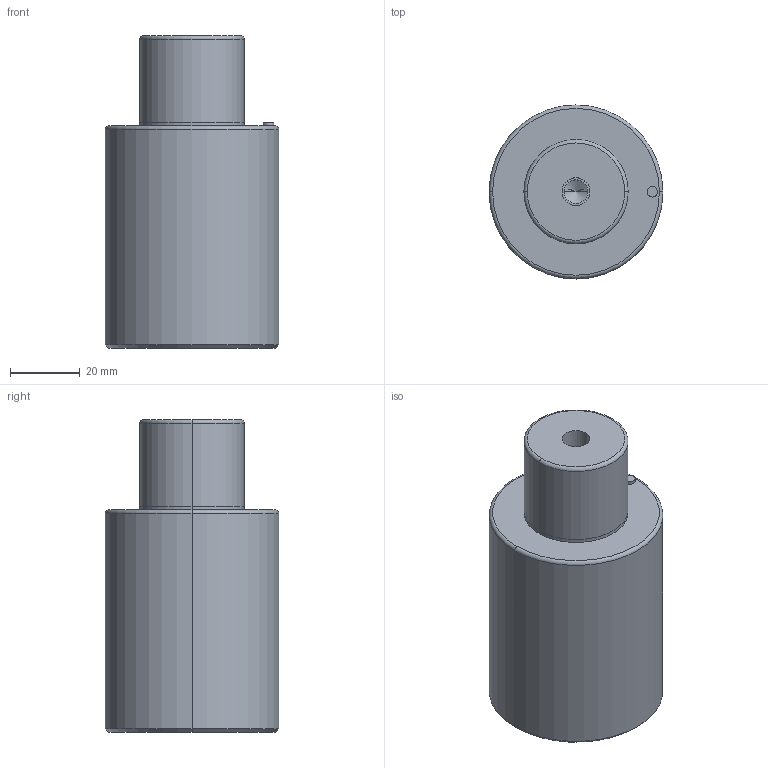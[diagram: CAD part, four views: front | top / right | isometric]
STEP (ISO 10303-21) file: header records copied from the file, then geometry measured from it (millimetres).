
FILE_DESCRIPTION(/* description */ (''),/* implementation_level */ '2;1');
FILE_NAME(/* name */ '3d_gsc50-25_03817_r00.stp',/* time_stamp */ '2011-01-10T14:15:21+09:00',/* author */ ('MISUMI'),/* organization */ (''),/* preprocessor_version */ 'ST-DEVELOPER v11',/* originating_system */ 'UGS - NX 5.0',/* authorisation */ '');
FILE_SCHEMA (('CONFIG_CONTROL_DESIGN'));
Length unit declared in the file: millimetre
Products named in the file (1): 3d_gsc50-25_03817_r00
Bounding box: 50 x 50 x 90 mm (x, y, z)
Volume: 141930.2 mm3; surface area: 17123.1 mm2
Topology: 1 solids, 1 shells, 32 faces, 66 edges, 38 vertices
Faces by surface type: cylinder 16, cone 6, plane 6, torus 4
Entity records: 912 total; most frequent: DIRECTION 168, CARTESIAN_POINT 133, ORIENTED_EDGE 124, AXIS2_PLACEMENT_3D 73, EDGE_CURVE 62, CIRCLE 40, EDGE_LOOP 38, VERTEX_POINT 38
